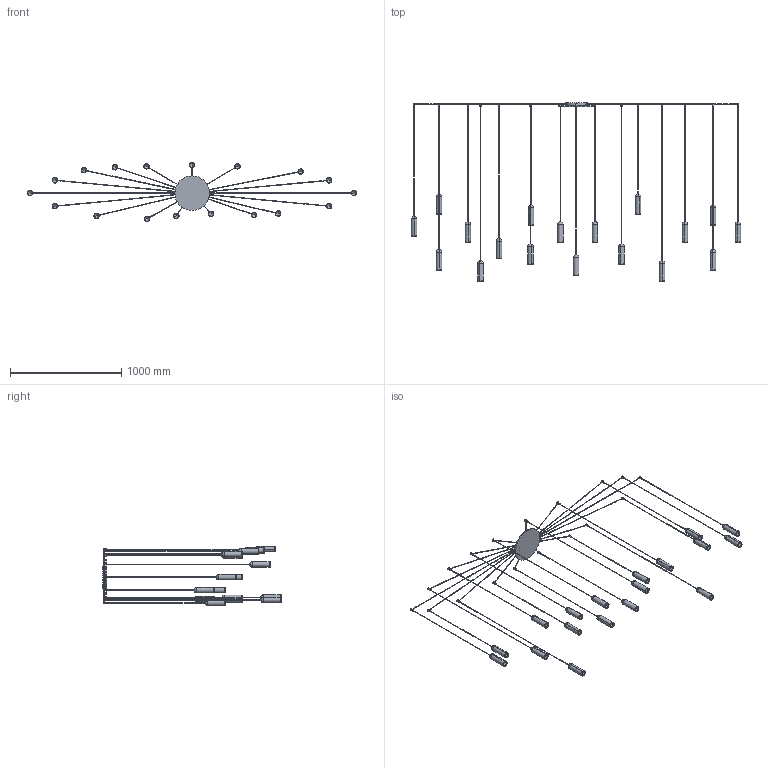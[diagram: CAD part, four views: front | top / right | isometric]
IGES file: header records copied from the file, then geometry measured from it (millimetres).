
Start section: SolidWorks IGES file using analytic representation for surfaces
Global section: file name: Y:\eforma\TECNICO\SOLIDWORKS\E-FORMA\09-LAMPADE\NANUM\02 parts\NANA6-00-NANUM_18 sospensione.IGS; native system: SolidWorks 2022; preprocessor: SolidWorks 2022; author: eforma.tech; date: 250505.164043; units: millimetre
Bounding box: 2959.5 x 1604.5 x 533.5 mm (x, y, z)
Volume: 3264082.8 mm3; surface area: 1721021.3 mm2
Topology: 55 solids, 55 shells, 672 faces, 1321 edges, 760 vertices
Faces by surface type: revolution 525, plane 147
